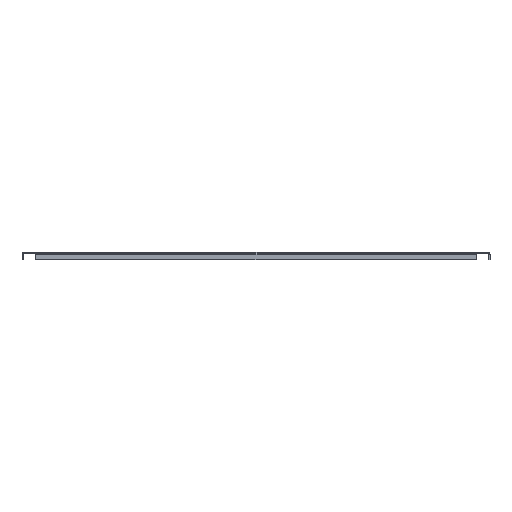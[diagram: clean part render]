
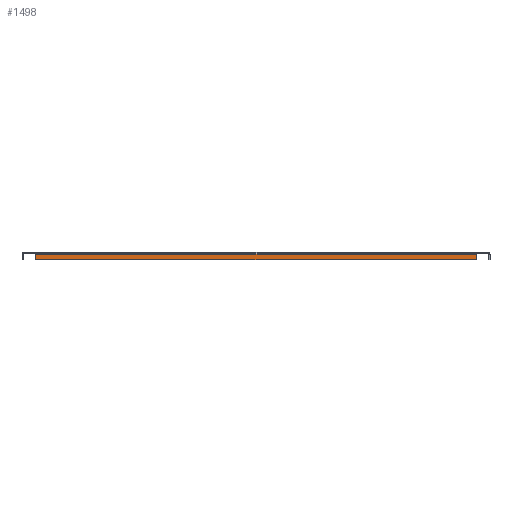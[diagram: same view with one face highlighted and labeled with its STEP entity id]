
A CAD part, front view. The second image highlights one B-rep face of the part: STEP entity #1498.
In plain terms, the highlighted planar face has unit normal (0, -1, 0).
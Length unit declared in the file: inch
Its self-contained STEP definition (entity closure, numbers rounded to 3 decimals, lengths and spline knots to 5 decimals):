
#2 = CARTESIAN_POINT ( 'NONE',  ( 0.745, -0.875, -0.72 ) ) ;
#3 = DIRECTION ( 'NONE',  ( -1., 0., 0. ) ) ;
#1498 = ADVANCED_FACE ( 'NONE', ( #1787 ), #11691, .F. ) ;
#1787 = FACE_OUTER_BOUND ( 'NONE', #4354, .T. ) ;
#2378 = LINE ( 'NONE', #9347, #2386 ) ;
#2386 = VECTOR ( 'NONE', #9350, 39.37008 ) ;
#2390 = LINE ( 'NONE', #9353, #2391 ) ;
#2391 = VECTOR ( 'NONE', #9354, 39.37008 ) ;
#2392 = LINE ( 'NONE', #9356, #2393 ) ;
#2393 = VECTOR ( 'NONE', #9357, 39.37008 ) ;
#2401 = LINE ( 'NONE', #2, #2402 ) ;
#2402 = VECTOR ( 'NONE', #3, 39.37008 ) ;
#4354 = EDGE_LOOP ( 'NONE', ( #4692, #4693, #4694, #4695 ) ) ;
#4692 = ORIENTED_EDGE ( 'NONE', *, *, #13064, .F. ) ;
#4693 = ORIENTED_EDGE ( 'NONE', *, *, #13067, .F. ) ;
#4694 = ORIENTED_EDGE ( 'NONE', *, *, #13072, .F. ) ;
#4695 = ORIENTED_EDGE ( 'NONE', *, *, #13066, .F. ) ;
#5742 = CARTESIAN_POINT ( 'NONE',  ( 53.505, -0.875, -0.12 ) ) ;
#5749 = CARTESIAN_POINT ( 'NONE',  ( 0.745, -0.875, -0.72 ) ) ;
#5849 = CARTESIAN_POINT ( 'NONE',  ( 53.505, -0.875, -0.72 ) ) ;
#5871 = CARTESIAN_POINT ( 'NONE',  ( 0.745, -0.875, -0.12 ) ) ;
#9347 = CARTESIAN_POINT ( 'NONE',  ( 53.505, -0.875, -0.12 ) ) ;
#9350 = DIRECTION ( 'NONE',  ( 1., 0., 0. ) ) ;
#9353 = CARTESIAN_POINT ( 'NONE',  ( 53.505, -0.875, -0.72 ) ) ;
#9354 = DIRECTION ( 'NONE',  ( 0., 0., -1. ) ) ;
#9356 = CARTESIAN_POINT ( 'NONE',  ( 0.745, -0.875, 0. ) ) ;
#9357 = DIRECTION ( 'NONE',  ( 0., 0., 1. ) ) ;
#9485 = VERTEX_POINT ( 'NONE', #5871 ) ;
#9506 = VERTEX_POINT ( 'NONE', #5849 ) ;
#9598 = VERTEX_POINT ( 'NONE', #5749 ) ;
#9605 = VERTEX_POINT ( 'NONE', #5742 ) ;
#11623 = DIRECTION ( 'NONE',  ( 0., 0., 1. ) ) ;
#11632 = DIRECTION ( 'NONE',  ( 0., 1., 0. ) ) ;
#11691 = PLANE ( 'NONE',  #13632 ) ;
#11770 = CARTESIAN_POINT ( 'NONE',  ( 53.505, -0.875, 0. ) ) ;
#13064 = EDGE_CURVE ( 'NONE', #9485, #9605, #2378, .T. ) ;
#13066 = EDGE_CURVE ( 'NONE', #9605, #9506, #2390, .T. ) ;
#13067 = EDGE_CURVE ( 'NONE', #9598, #9485, #2392, .T. ) ;
#13072 = EDGE_CURVE ( 'NONE', #9506, #9598, #2401, .T. ) ;
#13632 = AXIS2_PLACEMENT_3D ( 'NONE', #11770, #11632, #11623 ) ;
